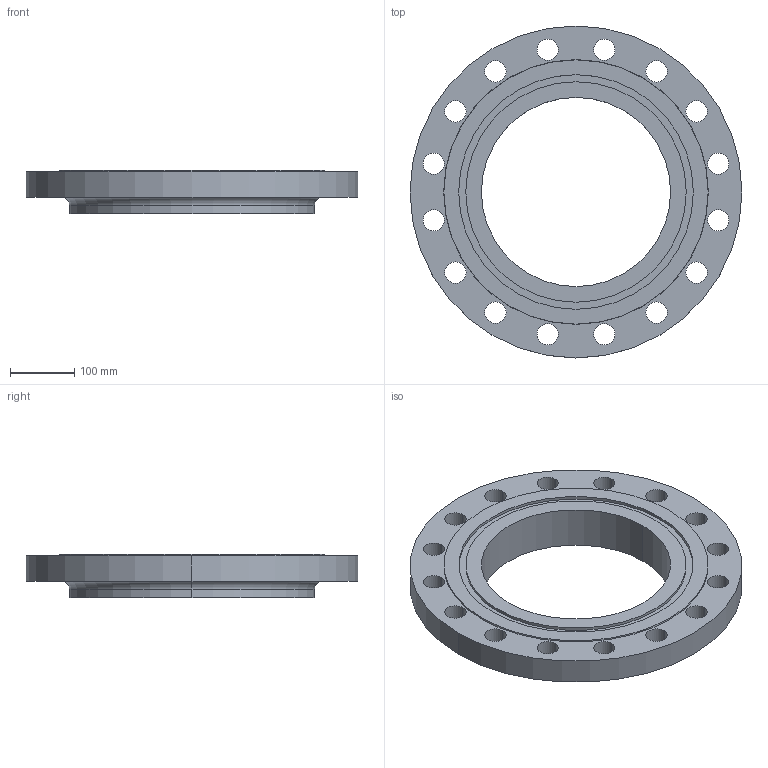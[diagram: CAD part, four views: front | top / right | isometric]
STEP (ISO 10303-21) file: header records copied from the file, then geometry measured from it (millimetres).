
FILE_DESCRIPTION (( 'STEP AP214' ), '1' );
FILE_NAME ('PN40 DN300 Type 13 - Type D Face.STEP', '2019-01-05T20:19:16', ( '' ), ( '' ), 'SwSTEP 2.0', 'SolidWorks 2019', '' );
FILE_SCHEMA (( 'AUTOMOTIVE_DESIGN' ));
Length unit declared in the file: millimetre
Products named in the file (1): PN40 DN300 Type 13 - Type D Face
Bounding box: 515 x 515 x 67 mm (x, y, z)
Volume: 6334104.2 mm3; surface area: 482679.4 mm2
Topology: 1 solids, 1 shells, 52 faces, 136 edges, 90 vertices
Faces by surface type: cylinder 42, plane 6, torus 2, cone 2
Entity records: 1758 total; most frequent: DIRECTION 334, CARTESIAN_POINT 279, ORIENTED_EDGE 272, AXIS2_PLACEMENT_3D 145, EDGE_CURVE 136, CIRCLE 92, EDGE_LOOP 90, VERTEX_POINT 90
